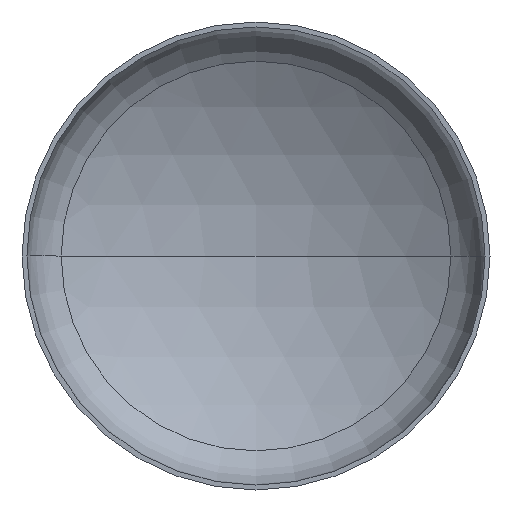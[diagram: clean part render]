
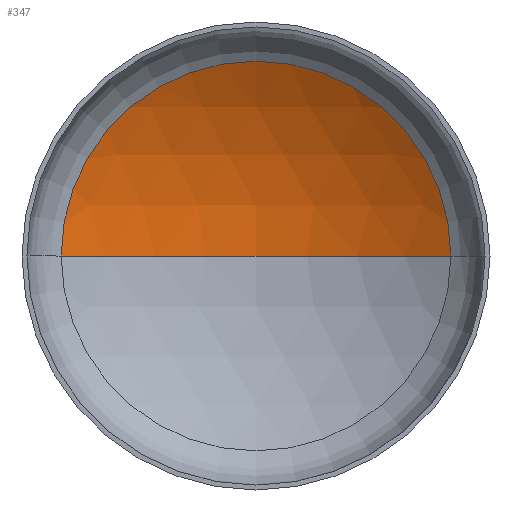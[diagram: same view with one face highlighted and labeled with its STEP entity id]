
A CAD part, front view. The second image highlights one B-rep face of the part: STEP entity #347.
In plain terms, the highlighted spherical face has radius 1520 mm.
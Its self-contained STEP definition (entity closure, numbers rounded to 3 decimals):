
#3 = DIRECTION ( 'NONE',  ( -1., 0., 0. ) ) ;
#9 = DIRECTION ( 'NONE',  ( 1., 0., 0. ) ) ;
#14 = AXIS2_PLACEMENT_3D ( 'NONE', #24, #17, #9 ) ;
#16 = AXIS2_PLACEMENT_3D ( 'NONE', #373, #209, #3 ) ;
#17 = DIRECTION ( 'NONE',  ( 0., 0., 1. ) ) ;
#18 = AXIS2_PLACEMENT_3D ( 'NONE', #164, #135, #142 ) ;
#23 = ORIENTED_EDGE ( 'NONE', *, *, #60, .T. ) ;
#24 = CARTESIAN_POINT ( 'NONE',  ( 0., -990.381, 0. ) ) ;
#36 = VERTEX_POINT ( 'NONE', #221 ) ;
#57 = CIRCLE ( 'NONE', #18, 790.894 ) ;
#59 = EDGE_CURVE ( 'NONE', #314, #145, #57, .T. ) ;
#60 = EDGE_CURVE ( 'NONE', #36, #314, #362, .T. ) ;
#61 = EDGE_CURVE ( 'NONE', #36, #145, #214, .T. ) ;
#63 = AXIS2_PLACEMENT_3D ( 'NONE', #118, #328, #159 ) ;
#72 = SPHERICAL_SURFACE ( 'NONE', #63, 1520. ) ;
#92 = ORIENTED_EDGE ( 'NONE', *, *, #61, .F. ) ;
#116 = ORIENTED_EDGE ( 'NONE', *, *, #59, .T. ) ;
#118 = CARTESIAN_POINT ( 'NONE',  ( 0., -990.381, 0. ) ) ;
#135 = DIRECTION ( 'NONE',  ( 0., -1., 0. ) ) ;
#142 = DIRECTION ( 'NONE',  ( 1., 0., 0. ) ) ;
#145 = VERTEX_POINT ( 'NONE', #170 ) ;
#159 = DIRECTION ( 'NONE',  ( -1., 0., 0. ) ) ;
#164 = CARTESIAN_POINT ( 'NONE',  ( 0., 307.651, 0. ) ) ;
#170 = CARTESIAN_POINT ( 'NONE',  ( -790.894, 307.651, 0. ) ) ;
#209 = DIRECTION ( 'NONE',  ( 0., 0., -1. ) ) ;
#210 = CARTESIAN_POINT ( 'NONE',  ( 790.894, 307.651, 0. ) ) ;
#214 = CIRCLE ( 'NONE', #14, 1520. ) ;
#221 = CARTESIAN_POINT ( 'NONE',  ( 0., 529.619, 0. ) ) ;
#307 = FACE_OUTER_BOUND ( 'NONE', #337, .T. ) ;
#314 = VERTEX_POINT ( 'NONE', #210 ) ;
#328 = DIRECTION ( 'NONE',  ( 0., 0., -1. ) ) ;
#337 = EDGE_LOOP ( 'NONE', ( #92, #23, #116 ) ) ;
#347 = ADVANCED_FACE ( 'NONE', ( #307 ), #72, .F. ) ;
#362 = CIRCLE ( 'NONE', #16, 1520. ) ;
#373 = CARTESIAN_POINT ( 'NONE',  ( 0., -990.381, 0. ) ) ;
